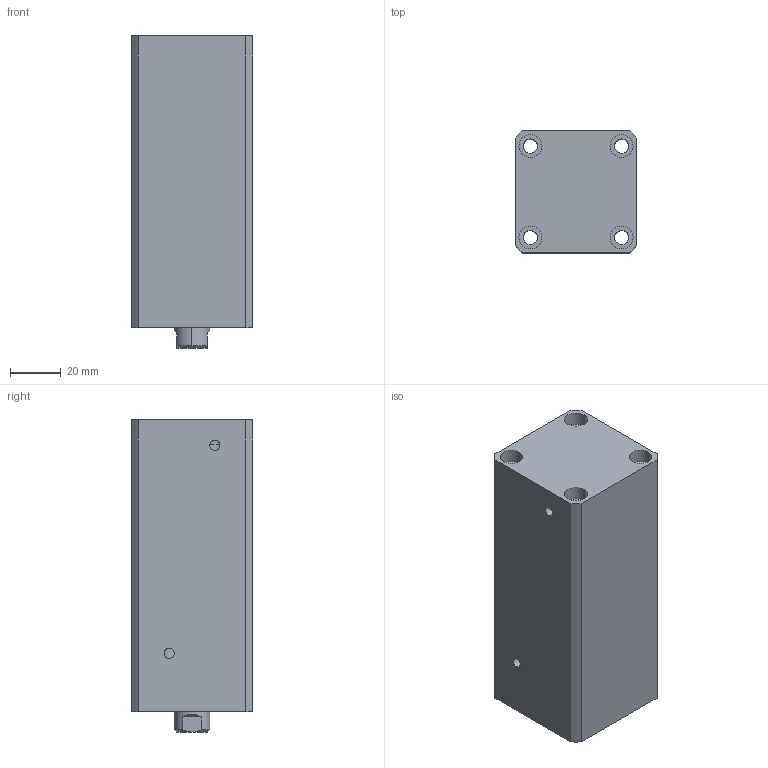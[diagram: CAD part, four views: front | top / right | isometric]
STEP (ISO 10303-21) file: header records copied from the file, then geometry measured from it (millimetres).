
FILE_DESCRIPTION (( 'STEP AP214' ), '1' );
FILE_NAME ('chtb-sdma25x70n_asm.STEP', '2018-05-22T07:08:45', ( 'Windows' ), ( 'Microsoft' ), 'SwSTEP 2.0', 'SolidWorks 2015', '' );
FILE_SCHEMA (( 'AUTOMOTIVE_DESIGN' ));
Length unit declared in the file: millimetre
Products named in the file (4): CHTB-SDMA25X70NHSG; CHTB-SDMA25X70NBT; CHTB-25QG; chtb-sdma25x70n_asm
Assembly tree (3 placements, depth 2):
  chtb-sdma25x70n_asm
    CHTB-25QG
    CHTB-SDMA25X70NBT
    CHTB-SDMA25X70NHSG
Bounding box: 48 x 48 x 123 mm (x, y, z)
Volume: 224170.5 mm3; surface area: 57025.9 mm2
Topology: 3 solids, 3 shells, 142 faces, 379 edges, 257 vertices
Faces by surface type: cylinder 89, plane 34, bspline 10, cone 9
Entity records: 8020 total; most frequent: CARTESIAN_POINT 4393, ORIENTED_EDGE 746, DIRECTION 661, EDGE_CURVE 373, AXIS2_PLACEMENT_3D 272, VERTEX_POINT 257, EDGE_LOOP 180, FACE_OUTER_BOUND 142
